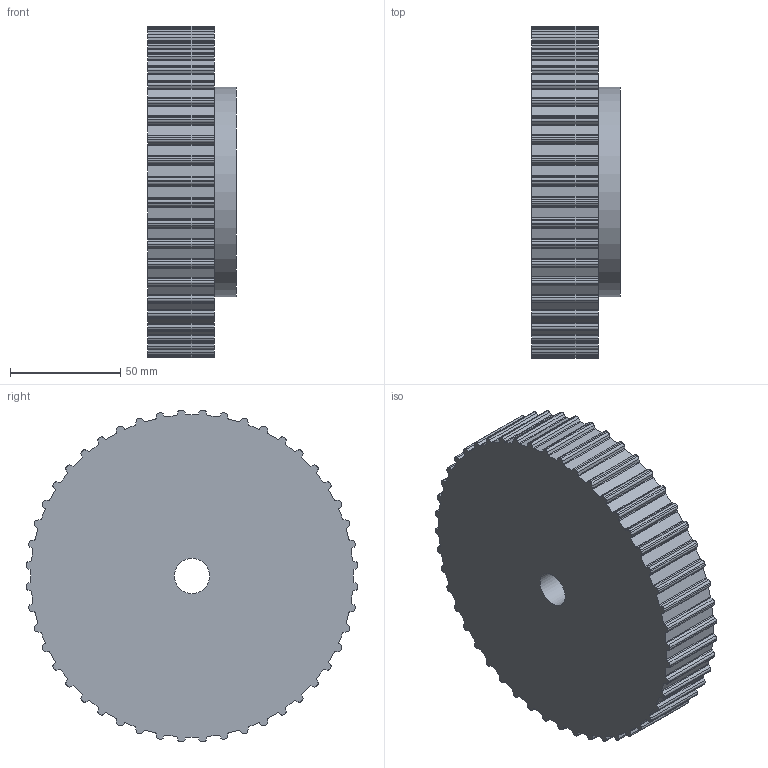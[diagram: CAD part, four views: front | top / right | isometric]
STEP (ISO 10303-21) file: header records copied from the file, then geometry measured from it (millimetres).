
FILE_DESCRIPTION( ( 'STEP AP203' ), '1' );
FILE_NAME( 'C:/Users/Stangenbergd/Documents/CAD_Step/1/16834800.stp', '2020-09-13T09:26:31', ( 'License CC BY-ND 4.0' ), ( 'CADENAS' ), ' ', 'PARTsolutions', ' ' );
FILE_SCHEMA( ( 'CONFIG_CONTROL_DESIGN' ) );
Length unit declared in the file: millimetre
Products named in the file (1): _16834800
Bounding box: 40 x 150.69 x 150.69 mm (x, y, z)
Volume: 577931.8 mm3; surface area: 56531 mm2
Topology: 1 solids, 1 shells, 389 faces, 1158 edges, 772 vertices
Faces by surface type: cylinder 242, plane 147
Full cylindrical faces by diameter (mm): 16 x1, 95 x1
Entity records: 13294 total; most frequent: DIRECTION 2420, CARTESIAN_POINT 2318, ORIENTED_EDGE 2312, EDGE_CURVE 1156, AXIS2_PLACEMENT_3D 874, VERTEX_POINT 772, LINE 672, VECTOR 672
